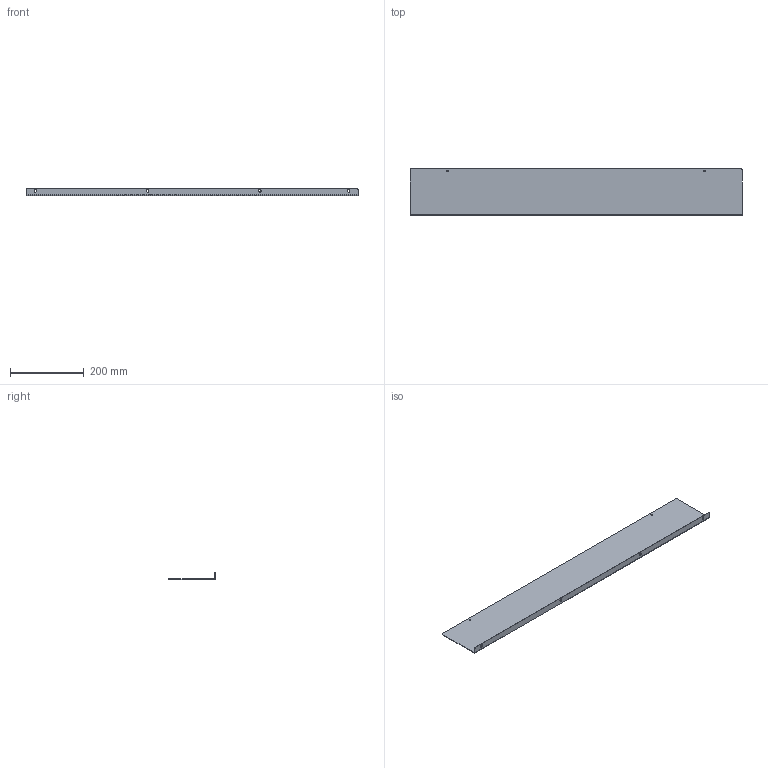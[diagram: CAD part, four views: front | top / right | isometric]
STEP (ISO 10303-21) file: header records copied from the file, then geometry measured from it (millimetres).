
FILE_DESCRIPTION((''),'2;1');
FILE_NAME('C:\Vault_Workspace\Inventor_Dwg\Inv-1\1100BA\WEBSITE\1100BA6036.stp','2015-02-02T15:11:21',('MichaelA'),(''),'Autodesk Inventor 2012','Autodesk Inventor 2012','');
FILE_SCHEMA(('AUTOMOTIVE_DESIGN { 1 0 10303 214 1 1 1 1 }'));
Length unit declared in the file: inch
Products named in the file (1): 1100BA-MASTER
Bounding box: 901.7 x 127 x 19.05 mm (x, y, z)
Volume: 181132.4 mm3; surface area: 262395.1 mm2
Topology: 1 solids, 1 shells, 24 faces, 58 edges, 36 vertices
Faces by surface type: cylinder 12, plane 12
Full cylindrical faces by diameter (mm): 4.496 x2, 7.137 x4
Entity records: 724 total; most frequent: DIRECTION 126, CARTESIAN_POINT 113, ORIENTED_EDGE 104, EDGE_CURVE 52, AXIS2_PLACEMENT_3D 49, EDGE_LOOP 42, VERTEX_POINT 36, VECTOR 28
